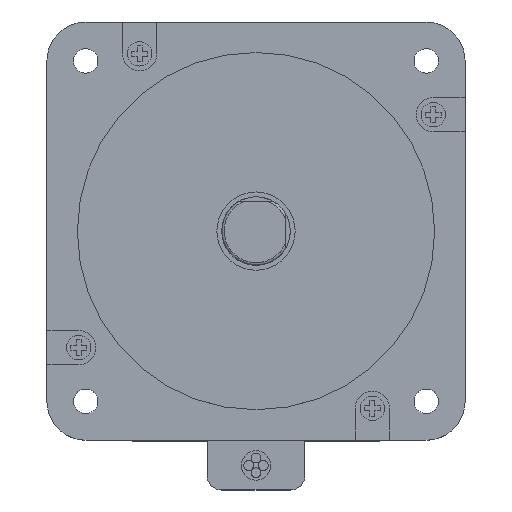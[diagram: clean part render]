
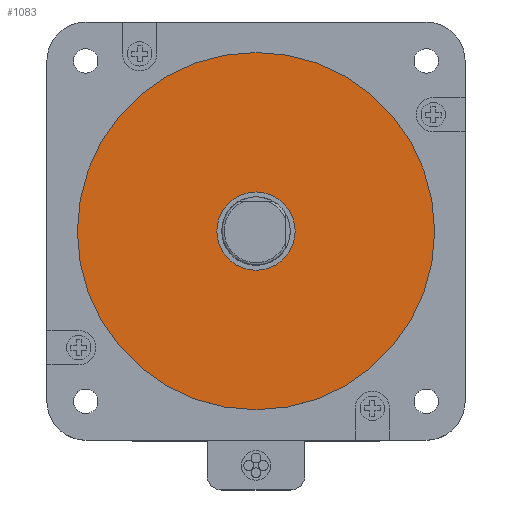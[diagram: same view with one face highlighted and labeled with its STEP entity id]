
A CAD part, top view. The second image highlights one B-rep face of the part: STEP entity #1083.
In plain terms, the highlighted planar face has unit normal (0, 0, 1).
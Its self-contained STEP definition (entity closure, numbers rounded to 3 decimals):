
#1083=ADVANCED_FACE('',(#1426,#1427),#1275,.T.);
#1275=PLANE('',#3824);
#1426=FACE_BOUND('',#1511,.T.);
#1427=FACE_BOUND('',#1512,.T.);
#1511=EDGE_LOOP('',(#2012));
#1512=EDGE_LOOP('',(#2013));
#2012=ORIENTED_EDGE('',*,*,#3336,.T.);
#2013=ORIENTED_EDGE('',*,*,#3337,.F.);
#2970=VERTEX_POINT('',#5597);
#2971=VERTEX_POINT('',#5600);
#3336=EDGE_CURVE('',#2970,#2970,#3670,.T.);
#3337=EDGE_CURVE('',#2971,#2971,#3671,.T.);
#3670=CIRCLE('',#3819,36.513);
#3671=CIRCLE('',#3821,8.);
#3819=AXIS2_PLACEMENT_3D('',#5596,#4448,#4449);
#3821=AXIS2_PLACEMENT_3D('',#5599,#4452,#4453);
#3824=AXIS2_PLACEMENT_3D('',#5604,#4458,#4459);
#4448=DIRECTION('',(0.,0.,1.));
#4449=DIRECTION('',(1.,0.,0.));
#4452=DIRECTION('',(0.,0.,1.));
#4453=DIRECTION('',(1.,0.,0.));
#4458=DIRECTION('',(0.,0.,1.));
#4459=DIRECTION('',(1.,0.,0.));
#5596=CARTESIAN_POINT('',(0.,0.,2.));
#5597=CARTESIAN_POINT('',(36.513,0.,2.));
#5599=CARTESIAN_POINT('',(0.,0.,2.));
#5600=CARTESIAN_POINT('',(8.,0.,2.));
#5604=CARTESIAN_POINT('',(0.,0.,2.));
